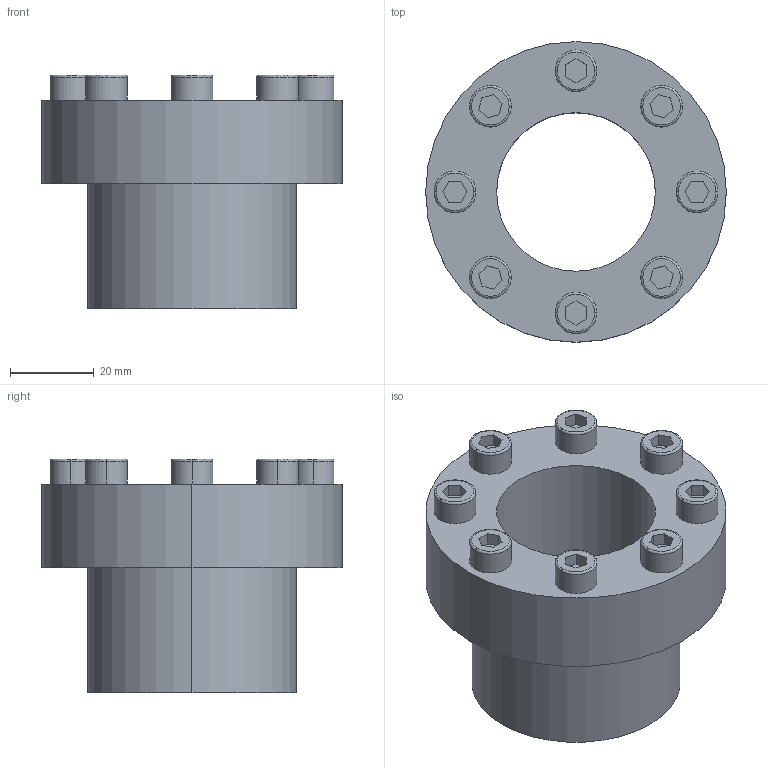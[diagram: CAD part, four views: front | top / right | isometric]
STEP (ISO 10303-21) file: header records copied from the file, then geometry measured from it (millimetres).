
FILE_DESCRIPTION (( 'STEP AP203' ), '1' );
FILE_NAME ('PL-C 38-50.STEP', '2021-10-22T08:40:03', ( '' ), ( '' ), 'SwSTEP 2.0', 'SolidWorks 2018', '' );
FILE_SCHEMA (( 'CONFIG_CONTROL_DESIGN' ));
Length unit declared in the file: millimetre
Products named in the file (1): PL-C 38-50
Bounding box: 72 x 72 x 56 mm (x, y, z)
Volume: 86866.3 mm3; surface area: 22948.9 mm2
Topology: 1 solids, 1 shells, 105 faces, 242 edges, 156 vertices
Faces by surface type: plane 67, cylinder 22, torus 16
Entity records: 3045 total; most frequent: DIRECTION 530, CARTESIAN_POINT 504, ORIENTED_EDGE 484, EDGE_CURVE 242, AXIS2_PLACEMENT_3D 182, LINE 166, VECTOR 166, VERTEX_POINT 156
